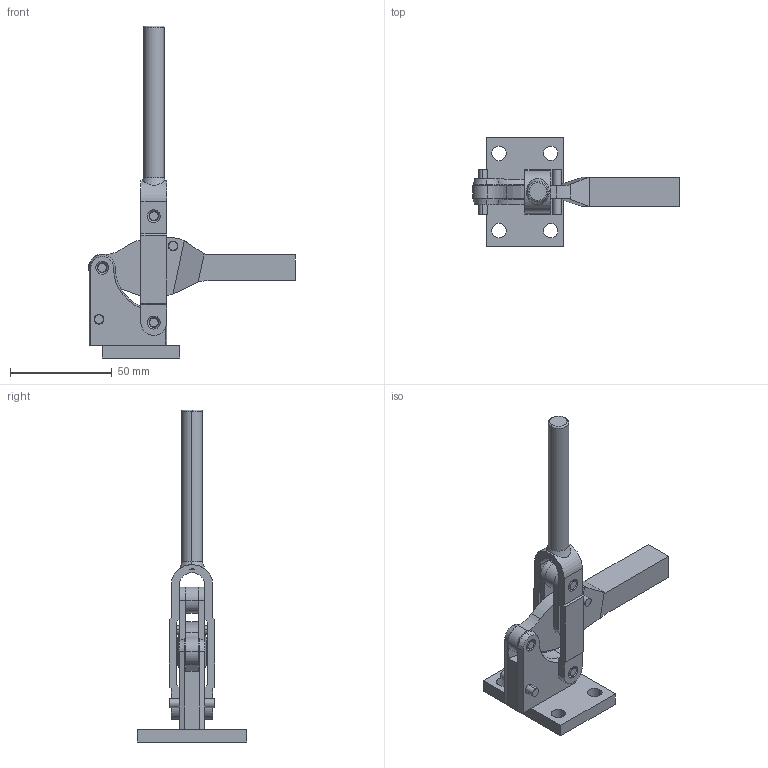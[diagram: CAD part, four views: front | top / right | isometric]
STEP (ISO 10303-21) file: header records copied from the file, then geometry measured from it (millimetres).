
FILE_DESCRIPTION( ( '' ), '1' );
FILE_NAME( 'C:\Documents and Settings\Richard Grenzke\My Documents\Wolverine Company Data\WOLVERINE CD 5_17_05\SOLIDS STEP\hold_down\cq905a.stp', ' ', ( '' ), ( '' ), 'ACIS Interop R16', 'Kubotek KeyCreator V5.5.1 (0454)', ' ' );
FILE_SCHEMA( ( 'CONFIG_CONTROL_DESIGN' ) );
Length unit declared in the file: inch
Products named in the file (13): 1; 2; 3; 4; 5; 6; 7; 8; 9; 10; 11; 12; 13
Bounding box: 101.94 x 53.98 x 163.5 mm (x, y, z)
Volume: 57749.5 mm3; surface area: 28346.1 mm2
Topology: 12 solids, 12 shells, 195 faces, 513 edges, 344 vertices
Faces by surface type: cylinder 81, plane 78, cone 30, sphere 4, torus 2
Entity records: 6856 total; most frequent: DIRECTION 1163, CARTESIAN_POINT 1151, ORIENTED_EDGE 1026, EDGE_CURVE 513, AXIS2_PLACEMENT_3D 452, VERTEX_POINT 344, LINE 259, VECTOR 259
